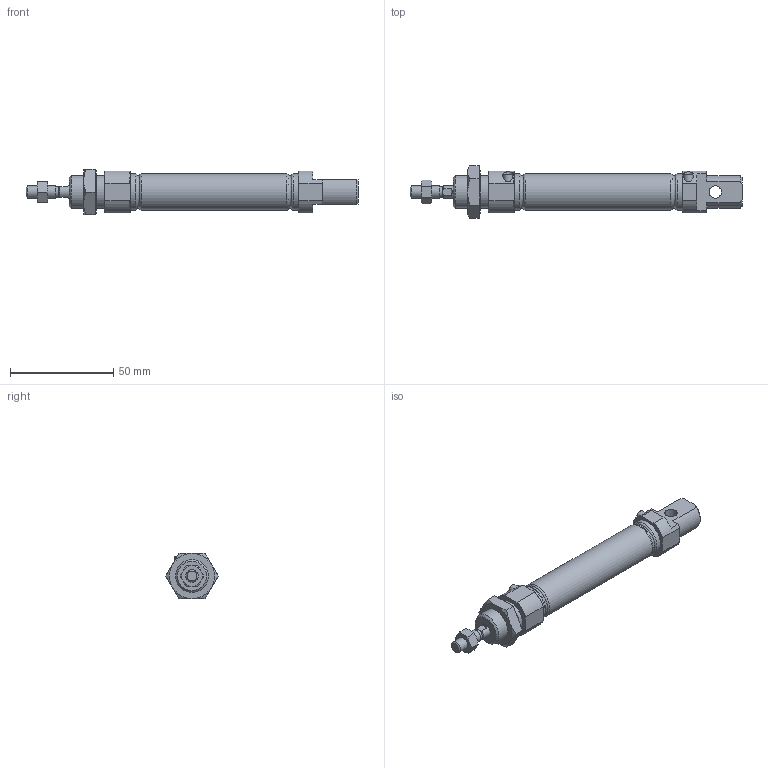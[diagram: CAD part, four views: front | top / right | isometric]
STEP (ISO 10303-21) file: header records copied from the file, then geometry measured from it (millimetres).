
FILE_DESCRIPTION(/* description */ ('STEP AP203'),/* implementation_level */ '2;1');
FILE_NAME(/* name */ 'IAC16X50-0-S()(0)',/* time_stamp */ '2026-05-17T11:46:30+02:00',/* author */ ('License CC BY-ND 4.0'),/* organization */ ('CADENAS'),/* preprocessor_version */ 'ST-DEVELOPER v20',/* originating_system */ 'PARTsolutions',/* authorisation */ ' ');
FILE_SCHEMA (('CONFIG_CONTROL_DESIGN'));
Length unit declared in the file: millimetre
Products named in the file (3): IAC16X50-0-S()(0); C16X50-CA-S()_ia_body; C16X50-0_rod
Assembly tree (2 placements, depth 2):
  IAC16X50-0-S()(0)
    C16X50-CA-S()_ia_body
    C16X50-0_rod
Bounding box: 161 x 25.4 x 22 mm (x, y, z)
Volume: 26461.5 mm3; surface area: 17460.8 mm2
Topology: 2 solids, 2 shells, 148 faces, 341 edges, 216 vertices
Faces by surface type: plane 63, cone 47, cylinder 32, torus 6
Full cylindrical faces by diameter (mm): 2 x1, 4.134 x2, 4.5 x2, 5.2 x1, 6 x6, 16 x4, 17.5 x3, 21 x1
Entity records: 4145 total; most frequent: CARTESIAN_POINT 949, DIRECTION 646, ORIENTED_EDGE 608, EDGE_CURVE 304, AXIS2_PLACEMENT_3D 277, VERTEX_POINT 210, EDGE_LOOP 200, FACE_BOUND 200
